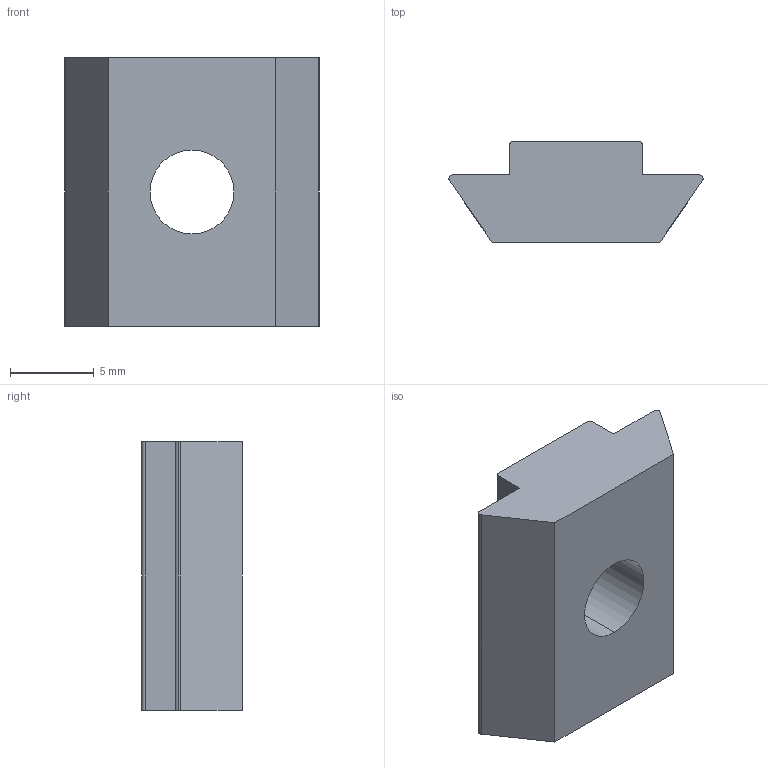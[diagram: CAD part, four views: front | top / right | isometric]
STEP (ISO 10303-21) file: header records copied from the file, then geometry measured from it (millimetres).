
FILE_DESCRIPTION (( 'STEP AP203' ), '1' );
FILE_NAME ('SLN6-83030.STEP', '2018-03-15T12:20:23', ( '' ), ( '' ), 'SwSTEP 2.0', 'SolidWorks 2013', '' );
FILE_SCHEMA (( 'CONFIG_CONTROL_DESIGN' ));
Length unit declared in the file: millimetre
Products named in the file (1): SLN6-83030
Bounding box: 15.14 x 6 x 16 mm (x, y, z)
Volume: 949.7 mm3; surface area: 802.6 mm2
Topology: 1 solids, 1 shells, 17 faces, 45 edges, 30 vertices
Faces by surface type: plane 10, cylinder 7
Entity records: 614 total; most frequent: DIRECTION 95, CARTESIAN_POINT 93, ORIENTED_EDGE 90, EDGE_CURVE 45, AXIS2_PLACEMENT_3D 32, LINE 31, VECTOR 31, VERTEX_POINT 30
